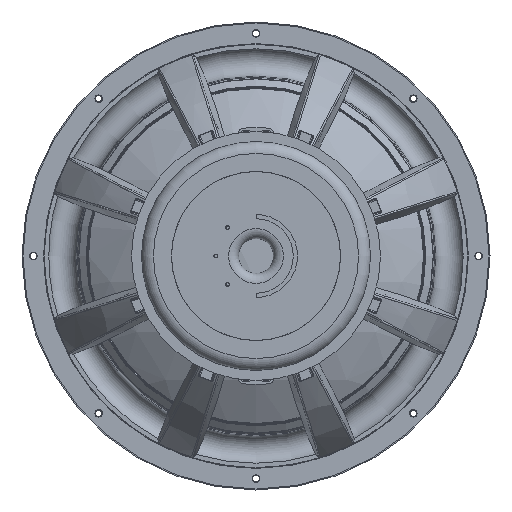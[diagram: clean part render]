
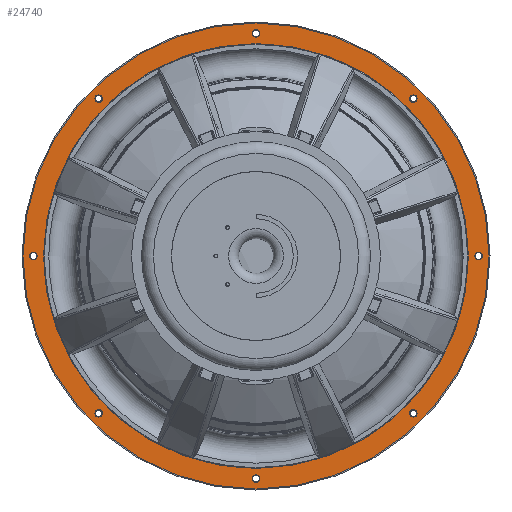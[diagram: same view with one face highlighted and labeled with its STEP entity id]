
A CAD part, front view. The second image highlights one B-rep face of the part: STEP entity #24740.
In plain terms, the highlighted planar face has unit normal (0, -1, 0).
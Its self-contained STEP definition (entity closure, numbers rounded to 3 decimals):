
#842=FACE_BOUND('',#4282,.T.);
#843=FACE_BOUND('',#4283,.T.);
#844=FACE_BOUND('',#4284,.T.);
#845=FACE_BOUND('',#4285,.T.);
#846=FACE_BOUND('',#4286,.T.);
#847=FACE_BOUND('',#4287,.T.);
#848=FACE_BOUND('',#4288,.T.);
#849=FACE_BOUND('',#4289,.T.);
#850=FACE_BOUND('',#4290,.T.);
#1283=PLANE('',#27165);
#2686=FACE_OUTER_BOUND('',#4281,.T.);
#4281=EDGE_LOOP('',(#22598));
#4282=EDGE_LOOP('',(#22599));
#4283=EDGE_LOOP('',(#22600));
#4284=EDGE_LOOP('',(#22601));
#4285=EDGE_LOOP('',(#22602));
#4286=EDGE_LOOP('',(#22603));
#4287=EDGE_LOOP('',(#22604));
#4288=EDGE_LOOP('',(#22605));
#4289=EDGE_LOOP('',(#22606));
#4290=EDGE_LOOP('',(#22607));
#4528=CIRCLE('',#25297,3.75);
#4530=CIRCLE('',#25300,3.75);
#4532=CIRCLE('',#25303,3.75);
#5193=CIRCLE('',#26500,213.315);
#5291=CIRCLE('',#26669,3.75);
#5292=CIRCLE('',#26671,3.75);
#5293=CIRCLE('',#26673,3.75);
#5294=CIRCLE('',#26675,3.75);
#5295=CIRCLE('',#26677,234.);
#5545=CIRCLE('',#27164,3.75);
#9902=VERTEX_POINT('',#60172);
#9904=VERTEX_POINT('',#60178);
#9906=VERTEX_POINT('',#60184);
#11122=VERTEX_POINT('',#97663);
#11222=VERTEX_POINT('',#99579);
#11223=VERTEX_POINT('',#99583);
#11224=VERTEX_POINT('',#99587);
#11225=VERTEX_POINT('',#99591);
#11226=VERTEX_POINT('',#99595);
#11538=VERTEX_POINT('',#106264);
#12642=EDGE_CURVE('',#9902,#9902,#4528,.T.);
#12645=EDGE_CURVE('',#9904,#9904,#4530,.T.);
#12648=EDGE_CURVE('',#9906,#9906,#4532,.T.);
#14540=EDGE_CURVE('',#11122,#11122,#5193,.T.);
#14707=EDGE_CURVE('',#11222,#11222,#5291,.T.);
#14709=EDGE_CURVE('',#11223,#11223,#5292,.T.);
#14711=EDGE_CURVE('',#11224,#11224,#5293,.T.);
#14713=EDGE_CURVE('',#11225,#11225,#5294,.T.);
#14716=EDGE_CURVE('',#11226,#11226,#5295,.T.);
#15274=EDGE_CURVE('',#11538,#11538,#5545,.T.);
#22598=ORIENTED_EDGE('',*,*,#14716,.F.);
#22599=ORIENTED_EDGE('',*,*,#14709,.T.);
#22600=ORIENTED_EDGE('',*,*,#14540,.F.);
#22601=ORIENTED_EDGE('',*,*,#12642,.T.);
#22602=ORIENTED_EDGE('',*,*,#12645,.T.);
#22603=ORIENTED_EDGE('',*,*,#12648,.T.);
#22604=ORIENTED_EDGE('',*,*,#14713,.T.);
#22605=ORIENTED_EDGE('',*,*,#14711,.T.);
#22606=ORIENTED_EDGE('',*,*,#15274,.T.);
#22607=ORIENTED_EDGE('',*,*,#14707,.T.);
#24740=ADVANCED_FACE('',(#2686,#842,#843,#844,#845,#846,#847,#848,#849,
#850),#1283,.F.);
#25297=AXIS2_PLACEMENT_3D('',#60173,#28667,#28668);
#25300=AXIS2_PLACEMENT_3D('',#60179,#28674,#28675);
#25303=AXIS2_PLACEMENT_3D('',#60185,#28681,#28682);
#26500=AXIS2_PLACEMENT_3D('',#97664,#31601,#31602);
#26669=AXIS2_PLACEMENT_3D('',#99580,#31970,#31971);
#26671=AXIS2_PLACEMENT_3D('',#99584,#31975,#31976);
#26673=AXIS2_PLACEMENT_3D('',#99588,#31980,#31981);
#26675=AXIS2_PLACEMENT_3D('',#99592,#31985,#31986);
#26677=AXIS2_PLACEMENT_3D('',#99597,#31991,#31992);
#27164=AXIS2_PLACEMENT_3D('',#106265,#33151,#33152);
#27165=AXIS2_PLACEMENT_3D('',#106267,#33154,#33155);
#28667=DIRECTION('center_axis',(0.,1.,0.));
#28668=DIRECTION('ref_axis',(-0.707,0.,-0.707));
#28674=DIRECTION('center_axis',(0.,1.,0.));
#28675=DIRECTION('ref_axis',(-1.,0.,0.));
#28681=DIRECTION('center_axis',(0.,1.,0.));
#28682=DIRECTION('ref_axis',(-0.707,0.,0.707));
#31601=DIRECTION('center_axis',(0.,-1.,0.));
#31602=DIRECTION('ref_axis',(1.,0.,0.));
#31970=DIRECTION('center_axis',(0.,1.,0.));
#31971=DIRECTION('ref_axis',(0.707,0.,0.707));
#31975=DIRECTION('center_axis',(0.,1.,0.));
#31976=DIRECTION('ref_axis',(0.,0.,1.));
#31980=DIRECTION('center_axis',(0.,1.,0.));
#31981=DIRECTION('ref_axis',(0.707,0.,-0.707));
#31985=DIRECTION('center_axis',(0.,1.,0.));
#31986=DIRECTION('ref_axis',(1.,0.,0.));
#31991=DIRECTION('center_axis',(0.,1.,0.));
#31992=DIRECTION('ref_axis',(1.,0.,0.));
#33151=DIRECTION('center_axis',(0.,1.,0.));
#33152=DIRECTION('ref_axis',(0.,0.,-1.));
#33154=DIRECTION('center_axis',(0.,1.,0.));
#33155=DIRECTION('ref_axis',(1.,0.,0.));
#60172=CARTESIAN_POINT('',(-155.387,144.5,160.69));
#60173=CARTESIAN_POINT('Origin',(-158.038,144.5,158.038));
#60178=CARTESIAN_POINT('',(3.75,144.5,223.5));
#60179=CARTESIAN_POINT('Origin',(0.,144.5,223.5));
#60184=CARTESIAN_POINT('',(160.69,144.5,155.387));
#60185=CARTESIAN_POINT('Origin',(158.038,144.5,158.038));
#97663=CARTESIAN_POINT('',(-213.315,144.5,0.));
#97664=CARTESIAN_POINT('Origin',(0.,144.5,0.));
#99579=CARTESIAN_POINT('',(155.387,144.5,-160.69));
#99580=CARTESIAN_POINT('Origin',(158.038,144.5,-158.038));
#99583=CARTESIAN_POINT('',(223.5,144.5,-3.75));
#99584=CARTESIAN_POINT('Origin',(223.5,144.5,0.));
#99587=CARTESIAN_POINT('',(-160.69,144.5,-155.387));
#99588=CARTESIAN_POINT('Origin',(-158.038,144.5,-158.038));
#99591=CARTESIAN_POINT('',(-3.75,144.5,-223.5));
#99592=CARTESIAN_POINT('Origin',(0.,144.5,-223.5));
#99595=CARTESIAN_POINT('',(-234.,144.5,0.));
#99597=CARTESIAN_POINT('Origin',(0.,144.5,0.));
#106264=CARTESIAN_POINT('',(-223.5,144.5,3.75));
#106265=CARTESIAN_POINT('Origin',(-223.5,144.5,0.));
#106267=CARTESIAN_POINT('Origin',(0.,144.5,0.));
